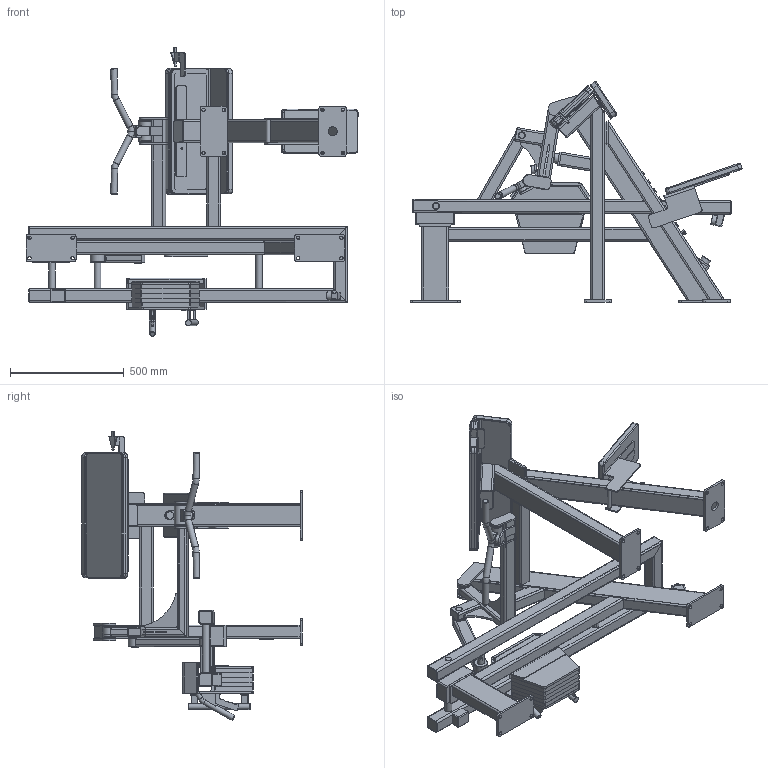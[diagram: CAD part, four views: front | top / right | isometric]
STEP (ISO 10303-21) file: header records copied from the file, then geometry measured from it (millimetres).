
FILE_DESCRIPTION(/* description */ (''),/* implementation_level */ '2;1');
FILE_NAME(/* name */ 'OG72_3D_Low.step',/* time_stamp */ '2025-11-11T16:03:17+02:00',/* author */ (''),/* organization */ (''),/* preprocessor_version */ 'ST-DEVELOPER v20.1',/* originating_system */ 'Autodesk Translation Framework v14.21.0.0',/* authorisation */ '');
FILE_SCHEMA (('AUTOMOTIVE_DESIGN { 1 0 10303 214 3 1 1 }'));
Products named in the file (1): OG72_3D_Low
Bounding box: 1460.17 x 970.2 x 1269.46 mm (x, y, z)
Volume: 30501662.6 mm3; surface area: 8807873 mm2
Topology: 100 solids, 106 shells, 1655 faces, 3994 edges, 2571 vertices
Faces by surface type: plane 797, cylinder 765, torus 39, bspline 34, cone 12, sphere 8
Full cylindrical faces by diameter (mm): 6.8 x12, 7 x5, 8.4 x1, 8.5 x16, 10 x2, 11.8 x1, 12 x2, 13 x19, 14 x1, 15 x17, 17.5 x64, 18 x1, 20 x6, 20.206 x60, 22 x5, 24 x2, 24.96 x5, 25 x8, 28 x11, 30 x13, 35 x2, 40 x1, 42 x3, 47 x1, 49 x4, 55 x2, 57 x2, 62 x2
Entity records: 67784 total; most frequent: CARTESIAN_POINT 28713, DIRECTION 8072, ORIENTED_EDGE 7964, EDGE_CURVE 3982, AXIS2_PLACEMENT_3D 2878, VERTEX_POINT 2571, LINE 2316, VECTOR 2316
